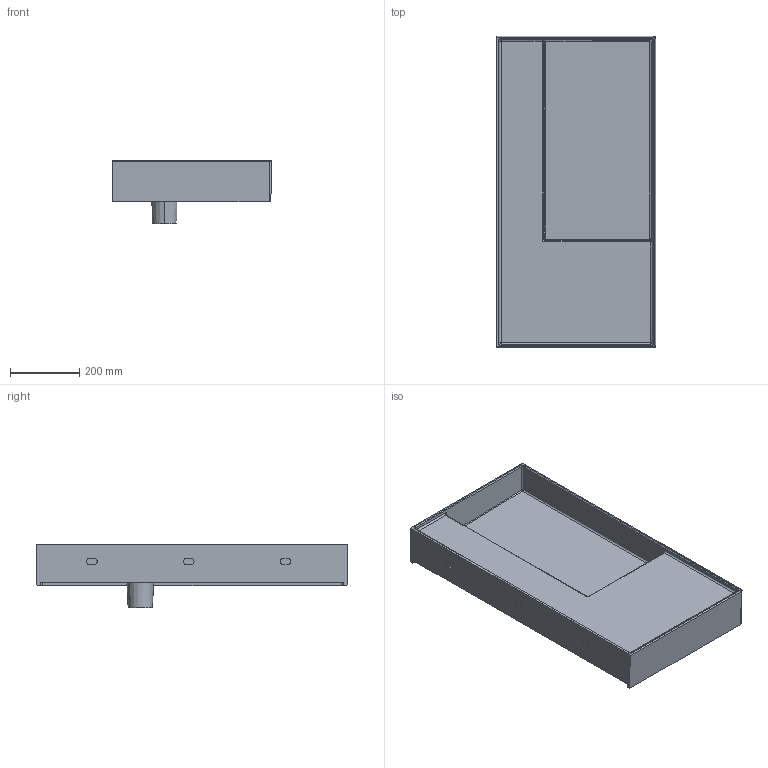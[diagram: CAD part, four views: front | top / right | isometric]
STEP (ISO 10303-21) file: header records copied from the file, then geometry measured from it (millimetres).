
FILE_DESCRIPTION(('CATIA V5 STEP'),'2;1');
FILE_NAME('G:\Laufen Similor\TPM-K\TPE\JStöckli\BIM\Kartell\10339\HY10339BIM.stp','2017-02-07T14:49:32+00:00',('none'),('none'),'CATIA Version 5 Release 19 SP 9 (IN-10)','CATIA V5 STEP AP203','none');
FILE_SCHEMA(('CONFIG_CONTROL_DESIGN'));
Length unit declared in the file: millimetre
Products named in the file (1): HY10339BIM
Bounding box: 459.95 x 899.89 x 184 mm (x, y, z)
Volume: 13563024.2 mm3; surface area: 1552685.3 mm2
Topology: 1 solids, 1 shells, 114 faces, 292 edges, 182 vertices
Faces by surface type: plane 45, cylinder 43, bspline 20, sphere 4, cone 2
Entity records: 7377 total; most frequent: CARTESIAN_POINT 4935, ORIENTED_EDGE 556, DIRECTION 354, EDGE_CURVE 278, VERTEX_POINT 173, AXIS2_PLACEMENT_3D 139, VECTOR 133, LINE 133
